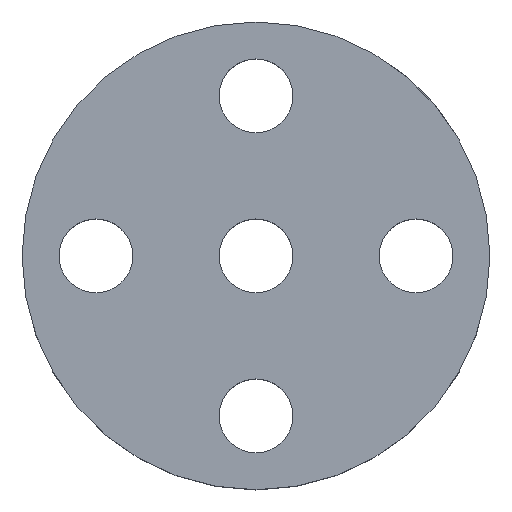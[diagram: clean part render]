
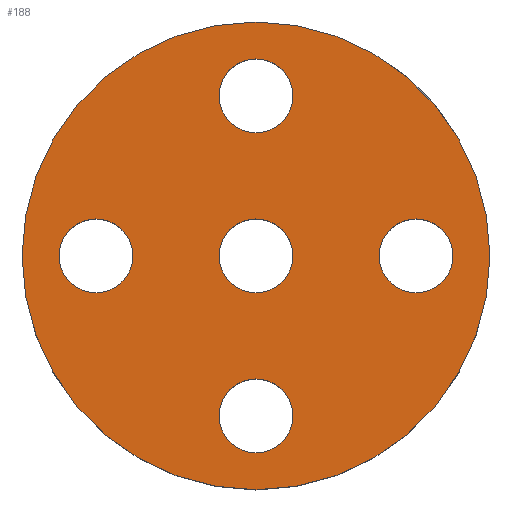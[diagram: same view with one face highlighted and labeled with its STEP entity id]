
A CAD part, top view. The second image highlights one B-rep face of the part: STEP entity #188.
In plain terms, the highlighted planar face has unit normal (0, 0, 1).
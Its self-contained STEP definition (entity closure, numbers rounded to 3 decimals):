
#15=PLANE('',#223);
#19=FACE_BOUND('',#60,.T.);
#20=FACE_BOUND('',#61,.T.);
#21=FACE_BOUND('',#62,.T.);
#22=FACE_BOUND('',#63,.T.);
#23=FACE_BOUND('',#64,.T.);
#29=CIRCLE('',#206,1.5);
#31=CIRCLE('',#209,1.5);
#33=CIRCLE('',#212,1.5);
#35=CIRCLE('',#215,1.5);
#37=CIRCLE('',#218,1.5);
#39=CIRCLE('',#221,9.5);
#48=FACE_OUTER_BOUND('',#59,.T.);
#59=EDGE_LOOP('',(#162));
#60=EDGE_LOOP('',(#163));
#61=EDGE_LOOP('',(#164));
#62=EDGE_LOOP('',(#165));
#63=EDGE_LOOP('',(#166));
#64=EDGE_LOOP('',(#167));
#93=VERTEX_POINT('',#356);
#95=VERTEX_POINT('',#362);
#97=VERTEX_POINT('',#368);
#99=VERTEX_POINT('',#374);
#101=VERTEX_POINT('',#380);
#103=VERTEX_POINT('',#386);
#110=EDGE_CURVE('',#93,#93,#29,.T.);
#113=EDGE_CURVE('',#95,#95,#31,.T.);
#116=EDGE_CURVE('',#97,#97,#33,.T.);
#119=EDGE_CURVE('',#99,#99,#35,.T.);
#122=EDGE_CURVE('',#101,#101,#37,.T.);
#125=EDGE_CURVE('',#103,#103,#39,.T.);
#162=ORIENTED_EDGE('',*,*,#125,.T.);
#163=ORIENTED_EDGE('',*,*,#122,.T.);
#164=ORIENTED_EDGE('',*,*,#119,.T.);
#165=ORIENTED_EDGE('',*,*,#116,.T.);
#166=ORIENTED_EDGE('',*,*,#113,.T.);
#167=ORIENTED_EDGE('',*,*,#110,.T.);
#188=ADVANCED_FACE('',(#48,#19,#20,#21,#22,#23),#15,.T.);
#206=AXIS2_PLACEMENT_3D('',#357,#232,#233);
#209=AXIS2_PLACEMENT_3D('',#363,#239,#240);
#212=AXIS2_PLACEMENT_3D('',#369,#246,#247);
#215=AXIS2_PLACEMENT_3D('',#375,#253,#254);
#218=AXIS2_PLACEMENT_3D('',#381,#260,#261);
#221=AXIS2_PLACEMENT_3D('',#387,#267,#268);
#223=AXIS2_PLACEMENT_3D('',#391,#272,#273);
#232=DIRECTION('center_axis',(0.,0.,-1.));
#233=DIRECTION('ref_axis',(1.,0.,0.));
#239=DIRECTION('center_axis',(0.,0.,-1.));
#240=DIRECTION('ref_axis',(1.,0.,0.));
#246=DIRECTION('center_axis',(0.,0.,-1.));
#247=DIRECTION('ref_axis',(1.,0.,0.));
#253=DIRECTION('center_axis',(0.,0.,-1.));
#254=DIRECTION('ref_axis',(1.,0.,0.));
#260=DIRECTION('center_axis',(0.,0.,-1.));
#261=DIRECTION('ref_axis',(1.,0.,0.));
#267=DIRECTION('center_axis',(0.,0.,1.));
#268=DIRECTION('ref_axis',(1.,0.,0.));
#272=DIRECTION('center_axis',(0.,0.,1.));
#273=DIRECTION('ref_axis',(1.,0.,0.));
#356=CARTESIAN_POINT('',(5.,0.,5.));
#357=CARTESIAN_POINT('Origin',(6.5,0.,5.));
#362=CARTESIAN_POINT('',(-1.5,-6.5,5.));
#363=CARTESIAN_POINT('Origin',(0.,-6.5,
5.));
#368=CARTESIAN_POINT('',(-8.,0.,5.));
#369=CARTESIAN_POINT('Origin',(-6.5,0.,5.));
#374=CARTESIAN_POINT('',(-1.5,6.5,5.));
#375=CARTESIAN_POINT('Origin',(0.,6.5,5.));
#380=CARTESIAN_POINT('',(-1.5,0.,5.));
#381=CARTESIAN_POINT('Origin',(0.,0.,5.));
#386=CARTESIAN_POINT('',(-9.5,0.,5.));
#387=CARTESIAN_POINT('Origin',(0.,0.,5.));
#391=CARTESIAN_POINT('Origin',(0.,0.,5.));
